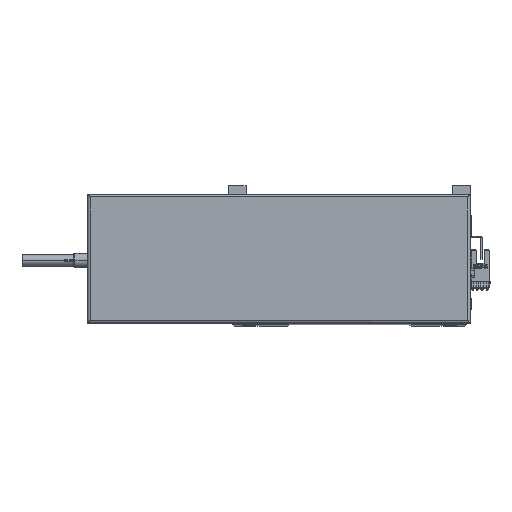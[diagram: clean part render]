
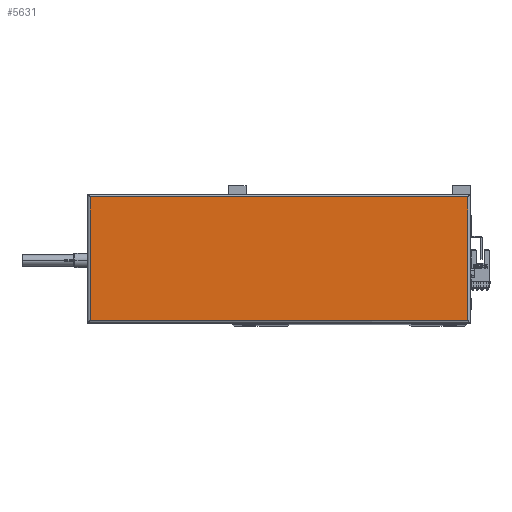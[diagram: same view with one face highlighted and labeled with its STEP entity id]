
A CAD part, top view. The second image highlights one B-rep face of the part: STEP entity #5631.
In plain terms, the highlighted planar face has unit normal (0, 0, 1).
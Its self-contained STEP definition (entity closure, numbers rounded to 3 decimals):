
#1460 = CARTESIAN_POINT ( 'NONE',  ( 0., 88., 44.8 ) ) ;
#4830 = VERTEX_POINT ( 'NONE', #31851 ) ;
#5290 = ORIENTED_EDGE ( 'NONE', *, *, #8127, .T. ) ;
#5631 = ADVANCED_FACE ( 'NONE', ( #31538 ), #49236, .T. ) ;
#8023 = VERTEX_POINT ( 'NONE', #26438 ) ;
#8127 = EDGE_CURVE ( 'NONE', #47275, #42341, #14321, .T. ) ;
#10704 = EDGE_CURVE ( 'NONE', #4830, #47275, #25785, .T. ) ;
#11889 = CARTESIAN_POINT ( 'NONE',  ( 265., 88., 44.8 ) ) ;
#13913 = EDGE_LOOP ( 'NONE', ( #5290, #41798, #21774, #28125 ) ) ;
#14321 = LINE ( 'NONE', #35395, #20986 ) ;
#15014 = LINE ( 'NONE', #35726, #50188 ) ;
#15309 = DIRECTION ( 'NONE',  ( 1., 0., 0. ) ) ;
#18505 = VECTOR ( 'NONE', #28784, 1000. ) ;
#20318 = DIRECTION ( 'NONE',  ( 0., -1., 0. ) ) ;
#20986 = VECTOR ( 'NONE', #27964, 1000. ) ;
#21774 = ORIENTED_EDGE ( 'NONE', *, *, #35970, .T. ) ;
#25785 = LINE ( 'NONE', #33148, #18505 ) ;
#26215 = LINE ( 'NONE', #1460, #35290 ) ;
#26438 = CARTESIAN_POINT ( 'NONE',  ( 2., 88., 44.8 ) ) ;
#27964 = DIRECTION ( 'NONE',  ( 0., 1., 0. ) ) ;
#28125 = ORIENTED_EDGE ( 'NONE', *, *, #10704, .T. ) ;
#28784 = DIRECTION ( 'NONE',  ( 1., 0., 0. ) ) ;
#28986 = DIRECTION ( 'NONE',  ( -1., 0., 0. ) ) ;
#29004 = CARTESIAN_POINT ( 'NONE',  ( 265., 2., 44.8 ) ) ;
#29926 = CARTESIAN_POINT ( 'NONE',  ( 133.5, 45., 44.8 ) ) ;
#31538 = FACE_OUTER_BOUND ( 'NONE', #13913, .T. ) ;
#31851 = CARTESIAN_POINT ( 'NONE',  ( 2., 2., 44.8 ) ) ;
#33148 = CARTESIAN_POINT ( 'NONE',  ( 267., 2., 44.8 ) ) ;
#35290 = VECTOR ( 'NONE', #28986, 1000. ) ;
#35395 = CARTESIAN_POINT ( 'NONE',  ( 265., 90., 44.8 ) ) ;
#35726 = CARTESIAN_POINT ( 'NONE',  ( 2., 0., 44.8 ) ) ;
#35970 = EDGE_CURVE ( 'NONE', #8023, #4830, #15014, .T. ) ;
#37696 = DIRECTION ( 'NONE',  ( 0., 0., 1. ) ) ;
#41798 = ORIENTED_EDGE ( 'NONE', *, *, #45341, .T. ) ;
#42341 = VERTEX_POINT ( 'NONE', #11889 ) ;
#45341 = EDGE_CURVE ( 'NONE', #42341, #8023, #26215, .T. ) ;
#46697 = AXIS2_PLACEMENT_3D ( 'NONE', #29926, #37696, #15309 ) ;
#47275 = VERTEX_POINT ( 'NONE', #29004 ) ;
#49236 = PLANE ( 'NONE',  #46697 ) ;
#50188 = VECTOR ( 'NONE', #20318, 1000. ) ;
